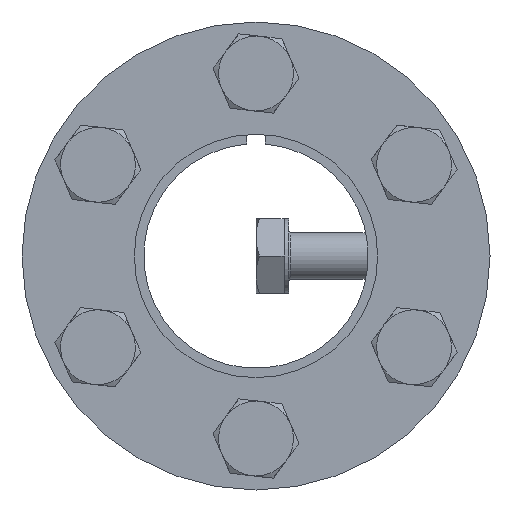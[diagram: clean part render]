
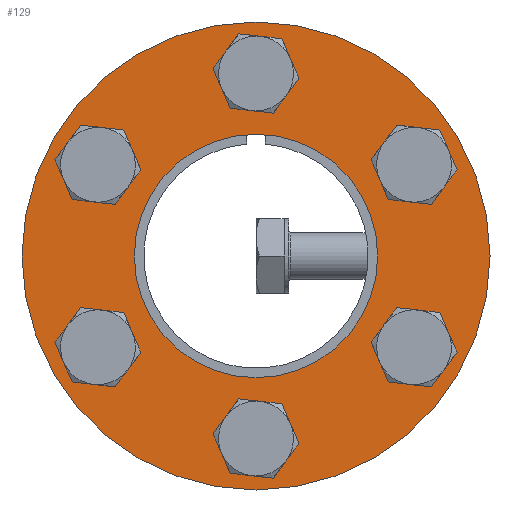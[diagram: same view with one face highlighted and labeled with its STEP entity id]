
A CAD part, front view. The second image highlights one B-rep face of the part: STEP entity #129.
In plain terms, the highlighted planar face has unit normal (0, -1, 0).
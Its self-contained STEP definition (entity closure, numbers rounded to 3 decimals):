
#129 = ADVANCED_FACE( '', ( #288, #289, #290, #291, #292, #293, #294, #295 ), #296, .F. );
#288 = FACE_BOUND( '', #465, .T. );
#289 = FACE_BOUND( '', #466, .T. );
#290 = FACE_BOUND( '', #467, .T. );
#291 = FACE_BOUND( '', #468, .T. );
#292 = FACE_OUTER_BOUND( '', #469, .T. );
#293 = FACE_BOUND( '', #470, .T. );
#294 = FACE_BOUND( '', #471, .T. );
#295 = FACE_BOUND( '', #472, .T. );
#296 = PLANE( '', #473 );
#465 = EDGE_LOOP( '', ( #764 ) );
#466 = EDGE_LOOP( '', ( #765 ) );
#467 = EDGE_LOOP( '', ( #766 ) );
#468 = EDGE_LOOP( '', ( #767 ) );
#469 = EDGE_LOOP( '', ( #768 ) );
#470 = EDGE_LOOP( '', ( #769 ) );
#471 = EDGE_LOOP( '', ( #770 ) );
#472 = EDGE_LOOP( '', ( #771 ) );
#473 = AXIS2_PLACEMENT_3D( '', #772, #773, #774 );
#764 = ORIENTED_EDGE( '', *, *, #908, .T. );
#765 = ORIENTED_EDGE( '', *, *, #942, .T. );
#766 = ORIENTED_EDGE( '', *, *, #979, .T. );
#767 = ORIENTED_EDGE( '', *, *, #980, .F. );
#768 = ORIENTED_EDGE( '', *, *, #963, .T. );
#769 = ORIENTED_EDGE( '', *, *, #937, .T. );
#770 = ORIENTED_EDGE( '', *, *, #960, .T. );
#771 = ORIENTED_EDGE( '', *, *, #981, .T. );
#772 = CARTESIAN_POINT( '', ( 0., -10., 25. ) );
#773 = DIRECTION( '', ( 0., 1., 0. ) );
#774 = DIRECTION( '', ( 0., 0., 1. ) );
#908 = EDGE_CURVE( '', #1086, #1086, #1087, .T. );
#937 = EDGE_CURVE( '', #1134, #1134, #1135, .T. );
#942 = EDGE_CURVE( '', #1142, #1142, #1143, .T. );
#960 = EDGE_CURVE( '', #1168, #1168, #1169, .T. );
#963 = EDGE_CURVE( '', #1173, #1173, #1174, .T. );
#979 = EDGE_CURVE( '', #1193, #1193, #1194, .T. );
#980 = EDGE_CURVE( '', #1195, #1195, #1196, .T. );
#981 = EDGE_CURVE( '', #1197, #1197, #1198, .T. );
#1086 = VERTEX_POINT( '', #1432 );
#1087 = CIRCLE( '', #1433, 2.5 );
#1134 = VERTEX_POINT( '', #1495 );
#1135 = CIRCLE( '', #1496, 2.5 );
#1142 = VERTEX_POINT( '', #1503 );
#1143 = CIRCLE( '', #1504, 2.5 );
#1168 = VERTEX_POINT( '', #1537 );
#1169 = CIRCLE( '', #1538, 2.5 );
#1173 = VERTEX_POINT( '', #1542 );
#1174 = CIRCLE( '', #1543, 25. );
#1193 = VERTEX_POINT( '', #1566 );
#1194 = CIRCLE( '', #1567, 2.5 );
#1195 = VERTEX_POINT( '', #1568 );
#1196 = CIRCLE( '', #1569, 13. );
#1197 = VERTEX_POINT( '', #1570 );
#1198 = CIRCLE( '', #1571, 2.5 );
#1432 = CARTESIAN_POINT( '', ( -18.137, -10., -7.585 ) );
#1433 = AXIS2_PLACEMENT_3D( '', #1669, #1670, #1671 );
#1495 = CARTESIAN_POINT( '', ( 18.137, -10., 7.585 ) );
#1496 = AXIS2_PLACEMENT_3D( '', #1708, #1709, #1710 );
#1503 = CARTESIAN_POINT( '', ( 15.637, -10., -11.915 ) );
#1504 = AXIS2_PLACEMENT_3D( '', #1717, #1718, #1719 );
#1537 = CARTESIAN_POINT( '', ( -2.5, -10., -19.5 ) );
#1538 = AXIS2_PLACEMENT_3D( '', #1740, #1741, #1742 );
#1542 = CARTESIAN_POINT( '', ( 0., -10., -25. ) );
#1543 = AXIS2_PLACEMENT_3D( '', #1746, #1747, #1748 );
#1566 = CARTESIAN_POINT( '', ( 2.5, -10., 19.5 ) );
#1567 = AXIS2_PLACEMENT_3D( '', #1765, #1766, #1767 );
#1568 = CARTESIAN_POINT( '', ( 0., -10., -13. ) );
#1569 = AXIS2_PLACEMENT_3D( '', #1768, #1769, #1770 );
#1570 = CARTESIAN_POINT( '', ( -15.637, -10., 11.915 ) );
#1571 = AXIS2_PLACEMENT_3D( '', #1771, #1772, #1773 );
#1669 = CARTESIAN_POINT( '', ( -16.887, -10., -9.75 ) );
#1670 = DIRECTION( '', ( 0., 1., 0. ) );
#1671 = DIRECTION( '', ( -0.5, 0., 0.866 ) );
#1708 = CARTESIAN_POINT( '', ( 16.887, -10., 9.75 ) );
#1709 = DIRECTION( '', ( 0., 1., 0. ) );
#1710 = DIRECTION( '', ( 0.5, 0., -0.866 ) );
#1717 = CARTESIAN_POINT( '', ( 16.887, -10., -9.75 ) );
#1718 = DIRECTION( '', ( 0., 1., 0. ) );
#1719 = DIRECTION( '', ( -0.5, 0., -0.866 ) );
#1740 = CARTESIAN_POINT( '', ( 0., -10., -19.5 ) );
#1741 = DIRECTION( '', ( 0., 1., 0. ) );
#1742 = DIRECTION( '', ( -1., 0., 0. ) );
#1746 = CARTESIAN_POINT( '', ( 0., -10., 0. ) );
#1747 = DIRECTION( '', ( 0., -1., 0. ) );
#1748 = DIRECTION( '', ( 0., 0., -1. ) );
#1765 = CARTESIAN_POINT( '', ( 0., -10., 19.5 ) );
#1766 = DIRECTION( '', ( 0., 1., 0. ) );
#1767 = DIRECTION( '', ( 1., 0., 0. ) );
#1768 = CARTESIAN_POINT( '', ( 0., -10., 0. ) );
#1769 = DIRECTION( '', ( 0., -1., 0. ) );
#1770 = DIRECTION( '', ( 0., 0., -1. ) );
#1771 = CARTESIAN_POINT( '', ( -16.887, -10., 9.75 ) );
#1772 = DIRECTION( '', ( 0., 1., 0. ) );
#1773 = DIRECTION( '', ( 0.5, 0., 0.866 ) );
